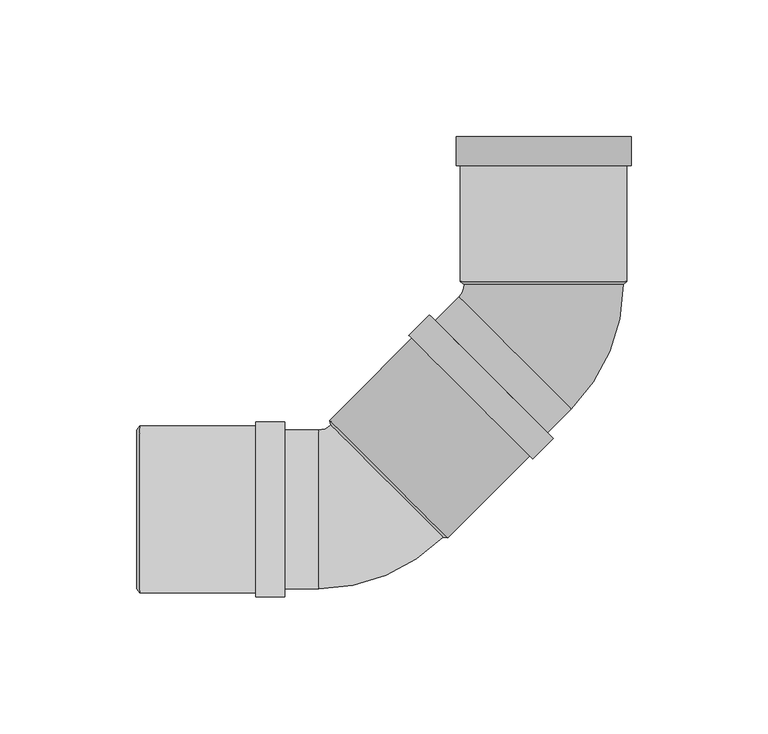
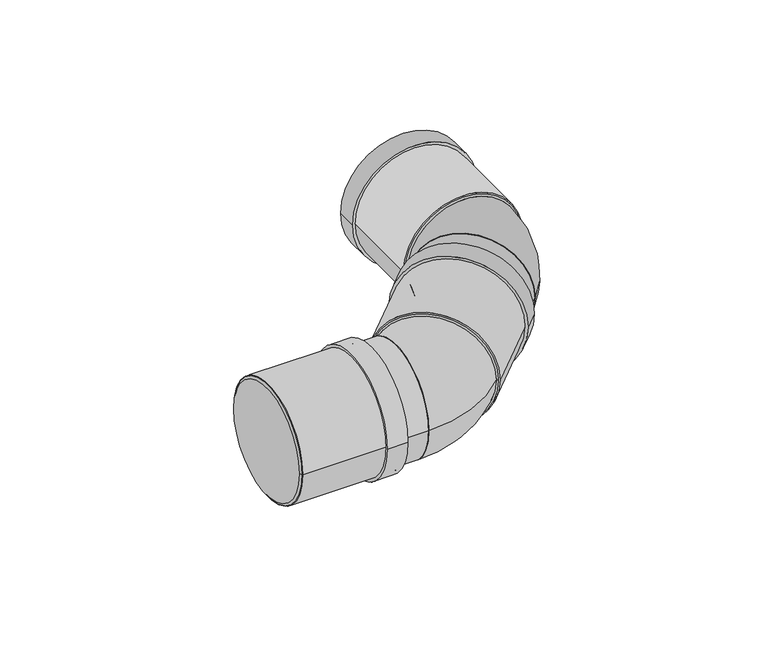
"""IFC4 building model written with IfcOpenShell, lengths in millimetres: pipe fitting geometry, Superdrain SK Bend_Composite 2x45 : Superdrain SK Bend_Composite 2x45."""

from ifc_helpers import new_model, si_unit, point, frame, origin, origin_2d, place, context, project, spatial, polyline, circle_curve, ellipse_curve, trimmed, segment, composite_curve, outline, extrude, source, transform, mapped, element, save
from ifc_brep_helpers import plane_surface, revolved_surface, advanced_brep


def pipe_fitting_acd45fcd(model_context):
    return source(origin(), model_context, "Body", "SolidModel", [
        advanced_brep(
        [(29.0, 82.1994083, 0.0), (-29.0, 82.1994083, 0.0), (10.1823376, 36.7695526, 0.0), (-30.8298557, 77.7817459, 0.0)],
        [
            (0, 1, circle_curve(frame((0.0, 82.1994083, 0.0), z_axis=(0.0, 1.0, 0.0), x_axis=(-1.0, 0.0, 0.0)), 29.0)),
            (1, 0, circle_curve(frame((0.0, 82.1994083, 0.0), z_axis=(0.0, 0.9999999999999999, 0.0), x_axis=(-0.9999999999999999, 0.0, 0.0)), 29.0)),
            (2, 3, circle_curve(frame((-10.323759, 57.2756493, 0.0), z_axis=(-0.7071067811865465, -0.7071067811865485, 0.0), x_axis=(-0.7071067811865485, 0.7071067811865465, 0.0)), 29.0)),
            (3, 2, circle_curve(frame((-10.323759, 57.2756493, 0.0), z_axis=(-0.7071067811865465, -0.7071067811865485, 0.0), x_axis=(-0.7071067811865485, 0.7071067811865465, 0.0)), 29.0)),
            (3, 1, circle_curve(frame((-35.247518, 82.1994083, 0.0), z_axis=(0.0, 0.0, 1.0), x_axis=(0.7071067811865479, 0.707106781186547, 0.0)), 6.247518)),
            (0, 2, circle_curve(frame((-35.247518, 82.1994083, 0.0), z_axis=(0.0, 0.0, -1.0), x_axis=(0.7071067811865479, 0.707106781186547, 0.0)), 64.247518)),
        ],
        [
            plane_surface(frame((0.0, 82.1994083, 0.0), z_axis=(0.0, 1.0, 0.0), x_axis=(0.0, 0.0, -1.0))),
            plane_surface(frame((-10.323759, 57.2756493, 0.0), z_axis=(-0.7071067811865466, -0.7071067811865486, 0.0), x_axis=(0.0, 0.0, -1.0))),
            revolved_surface(trimmed(ellipse_curve(frame((-10.323759, 107.1231673, 0.0), z_axis=(0.707106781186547, -0.7071067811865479, 0.0), x_axis=(-0.7071067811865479, -0.707106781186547, 0.0)), 29.0, 29.0), [point((-30.8298557, 86.6170706, 0.0))], [point((10.1823376, 127.6292639, 0.0))], True, "CARTESIAN"), (-35.247518, 82.1994083, 0.0), (0.0, 0.0, 1.0)),
            revolved_surface(trimmed(ellipse_curve(frame((-10.323759, 107.1231673, 0.0), z_axis=(0.707106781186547, -0.7071067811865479, 0.0), x_axis=(-0.7071067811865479, -0.707106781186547, 0.0)), 29.0, 29.0), [point((10.1823376, 127.6292639, 0.0))], [point((-30.8298557, 86.6170706, 0.0))], True, "CARTESIAN"), (-35.247518, 82.1994083, 0.0), (0.0, 0.0, 1.0)),
        ],
        [
            (0, [[1, 2]]),
            (1, [[3, 4]]),
            (2, [[-4, 5, -1, 6]]),
            (3, [[-3, -6, -2, -5]]),
        ],
    ),
        extrude(outline(composite_curve([segment(trimmed(circle_curve(origin_2d(), 30.45), [point((0.0, 30.45))], [point((0.0, -30.45))], False, "CARTESIAN"), True, "CONTINUOUS"), segment(trimmed(circle_curve(origin_2d(), 30.45), [point((0.0, -30.45))], [point((0.0, 30.45))], False, "CARTESIAN"), True, "CONTINUOUS")], self_intersect=False), holes=[composite_curve([segment(trimmed(circle_curve(origin_2d(), 29.0), [point((0.0, 29.0))], [point((0.0, -29.0))], True, "CARTESIAN"), True, "CONTINUOUS"), segment(trimmed(circle_curve(origin_2d(), 29.0), [point((0.0, -29.0))], [point((0.0, 29.0))], True, "CARTESIAN"), True, "CONTINUOUS")], self_intersect=False)]), frame((0.0, 83.1994083, 0.0), z_axis=(0.0, 1.0, 0.0), x_axis=(0.0, 0.0, 1.0)), (0.0, 0.0, 1.0), 53.0),
        extrude(outline(composite_curve([segment(trimmed(circle_curve(origin_2d(), 31.9725), [point((0.0, -31.9725))], [point((0.0, 31.9725))], False, "CARTESIAN"), True, "CONTINUOUS"), segment(trimmed(circle_curve(origin_2d(), 31.9725), [point((0.0, 31.9725))], [point((0.0, -31.9725))], False, "CARTESIAN"), True, "CONTINUOUS")], self_intersect=False), holes=[composite_curve([segment(trimmed(circle_curve(origin_2d(), 29.0), [point((0.0, -29.0))], [point((0.0, 29.0))], True, "CARTESIAN"), True, "CONTINUOUS"), segment(trimmed(circle_curve(origin_2d(), 29.0), [point((0.0, 29.0))], [point((0.0, -29.0))], True, "CARTESIAN"), True, "CONTINUOUS")], self_intersect=False)]), frame((0.0, 125.5994083, 0.0), z_axis=(0.0, 1.0, 0.0), x_axis=(0.0, 0.0, 1.0)), (0.0, 0.0, 1.0), 10.6),
        advanced_brep(
        [(30.45, 83.1994083, 0.0), (-30.45, 83.1994083, 0.0), (29.0, 82.1994083, 0.0), (-29.0, 82.1994083, 0.0)],
        [
            (0, 1, circle_curve(frame((0.0, 83.1994083, 0.0), z_axis=(0.0, 1.0, 0.0), x_axis=(1.0, 0.0, 0.0)), 30.45)),
            (1, 0, circle_curve(frame((0.0, 83.1994083, 0.0), z_axis=(0.0, 1.0, 0.0), x_axis=(-0.9999999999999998, 0.0, 0.0)), 30.45)),
            (2, 3, circle_curve(frame((0.0, 82.1994083, 0.0), z_axis=(0.0, -1.0, 0.0), x_axis=(-0.9999999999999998, 0.0, 0.0)), 29.0)),
            (3, 2, circle_curve(frame((0.0, 82.1994083, 0.0), z_axis=(0.0, -1.0, 0.0), x_axis=(1.0, 0.0, 0.0)), 29.0)),
            (3, 1),
            (0, 2),
        ],
        [
            plane_surface(frame((0.0, 83.1994083, 0.0), z_axis=(0.0, 1.0, 0.0), x_axis=(0.0, 0.0, -1.0))),
            plane_surface(frame((0.0, 82.1994083, 0.0), z_axis=(0.0, -1.0, 0.0), x_axis=(0.0, 0.0, -1.0))),
            revolved_surface(polyline([(-28.999999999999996, 82.1994083, 0.0), (-30.45, 83.1994083, 0.0)]), (0.0, 62.1994083, 0.0), (0.0, 1.0, 0.0)),
            revolved_surface(polyline([(28.999999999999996, 82.1994083, 0.0), (30.45, 83.1994083, 0.0)]), (0.0, 62.1994083, 0.0), (0.0, 1.0, 0.0)),
        ],
        [
            (0, [[1, 2]]),
            (1, [[3, 4]]),
            (2, [[-4, 5, -1, 6]]),
            (3, [[-3, -6, -2, -5]]),
        ],
    ),
        extrude(outline(composite_curve([segment(trimmed(circle_curve(origin_2d(), 29.0), [point((0.0, -29.0000001))], [point((0.0, 28.9999999))], False, "CARTESIAN"), True, "CONTINUOUS"), segment(trimmed(circle_curve(origin_2d(), 29.0), [point((0.0, 28.9999999))], [point((0.0, -29.0000001))], False, "CARTESIAN"), True, "CONTINUOUS")], self_intersect=False)), frame((-56.5685425, 11.0308658, 0.0), z_axis=(0.707106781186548, 0.7071067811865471, 0.0), x_axis=(0.0, 0.0, -1.0)), (0.0, 0.0, 1.0), 65.4),
        extrude(outline(composite_curve([segment(trimmed(circle_curve(origin_2d(), 30.45), [point((30.45, 0.0))], [point((-30.45, 0.0))], False, "CARTESIAN"), True, "CONTINUOUS"), segment(trimmed(circle_curve(origin_2d(), 30.45), [point((-30.45, 0.0))], [point((30.45, 0.0))], False, "CARTESIAN"), True, "CONTINUOUS")], self_intersect=False), holes=[composite_curve([segment(trimmed(circle_curve(origin_2d(), 29.0), [point((29.0, 0.0))], [point((-29.0, 0.0))], True, "CARTESIAN"), True, "CONTINUOUS"), segment(trimmed(circle_curve(origin_2d(), 29.0), [point((-29.0, 0.0))], [point((29.0, 0.0))], True, "CARTESIAN"), True, "CONTINUOUS")], self_intersect=False)]), frame((-147.5994083, 0.0, 0.0), z_axis=(1.0, 0.0, 0.0), x_axis=(0.0, 1.0, 0.0)), (0.0, 0.0, 1.0), 53.0),
        extrude(outline(composite_curve([segment(trimmed(circle_curve(origin_2d(), 31.9725), [point((31.9725, 0.0))], [point((-31.9725, 0.0))], False, "CARTESIAN"), True, "CONTINUOUS"), segment(trimmed(circle_curve(origin_2d(), 31.9725), [point((-31.9725, 0.0))], [point((31.9725, 0.0))], False, "CARTESIAN"), True, "CONTINUOUS")], self_intersect=False), holes=[composite_curve([segment(trimmed(circle_curve(origin_2d(), 29.0), [point((29.0, 0.0))], [point((-29.0, 0.0))], True, "CARTESIAN"), True, "CONTINUOUS"), segment(trimmed(circle_curve(origin_2d(), 29.0), [point((-29.0, 0.0))], [point((29.0, 0.0))], True, "CARTESIAN"), True, "CONTINUOUS")], self_intersect=False)]), frame((-105.1994083, 0.0, 0.0), z_axis=(1.0, 0.0, 0.0), x_axis=(0.0, 1.0, 0.0)), (0.0, 0.0, 1.0), 10.6),
        advanced_brep(
        [(-148.5994083, 29.0, 0.0), (-148.5994083, -29.0, 0.0), (-147.5994083, 30.45, 0.0), (-147.5994083, -30.45, 0.0)],
        [
            (0, 1, circle_curve(frame((-148.5994083, 0.0, 0.0), z_axis=(-1.0, 0.0, 0.0), x_axis=(0.0, 1.0000000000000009, 0.0)), 29.0)),
            (1, 0, circle_curve(frame((-148.5994083, 0.0, 0.0), z_axis=(-1.0, 0.0, 0.0), x_axis=(0.0, -1.0000000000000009, 0.0)), 29.0)),
            (2, 3, circle_curve(frame((-147.5994083, 0.0, 0.0), z_axis=(1.0, 0.0, 0.0), x_axis=(0.0, -1.0000000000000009, 0.0)), 30.45)),
            (3, 2, circle_curve(frame((-147.5994083, 0.0, 0.0), z_axis=(1.0, 0.0, 0.0), x_axis=(0.0, 1.0000000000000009, 0.0)), 30.45)),
            (3, 1),
            (0, 2),
        ],
        [
            plane_surface(frame((-148.5994083, 0.0, 0.0), z_axis=(-1.0, 0.0, 0.0), x_axis=(0.0, 0.0, -1.0))),
            plane_surface(frame((-147.5994083, 0.0, 0.0), z_axis=(1.0, 0.0, 0.0), x_axis=(0.0, 0.0, -1.0))),
            revolved_surface(polyline([(-148.5994083, 28.999999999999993, 0.0), (-147.5994083, 30.45, 0.0)]), (-168.5994083, 0.0, 0.0), (1.0000000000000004, 0.0, 0.0)),
            revolved_surface(polyline([(-148.5994083, -28.999999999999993, 0.0), (-147.5994083, -30.45, 0.0)]), (-168.5994083, 0.0, 0.0), (1.0000000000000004, 0.0, 0.0)),
        ],
        [
            (0, [[1, 2]]),
            (1, [[3, 4]]),
            (2, [[-4, 5, -1, 6]]),
            (3, [[-3, -6, -2, -5]]),
        ],
    ),
        advanced_brep(
        [(-36.7695526, -10.1823376, 0.0), (-77.7817459, 30.8298557, 0.0), (-82.1994083, -29.0, 0.0), (-82.1994083, 29.0, 0.0)],
        [
            (0, 1, circle_curve(frame((-57.2756493, 10.323759, 0.0), z_axis=(0.7071067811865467, 0.7071067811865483, 0.0), x_axis=(-0.7071067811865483, 0.7071067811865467, 0.0)), 29.0)),
            (1, 0, circle_curve(frame((-57.2756493, 10.323759, 0.0), z_axis=(0.7071067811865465, 0.7071067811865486, 0.0), x_axis=(-0.7071067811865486, 0.7071067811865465, 0.0)), 29.0)),
            (2, 3, circle_curve(frame((-82.1994083, 0.0, 0.0), z_axis=(-1.0, 0.0, 0.0), x_axis=(0.0, 1.0, 0.0)), 29.0)),
            (3, 2, circle_curve(frame((-82.1994083, 0.0, 0.0), z_axis=(-1.0, 0.0, 0.0), x_axis=(0.0, 1.0, 0.0)), 29.0)),
            (3, 1, circle_curve(frame((-82.1994083, 35.247518, 0.0), z_axis=(0.0, 0.0, 1.0), x_axis=(1.0, 0.0, 0.0)), 6.247518)),
            (0, 2, circle_curve(frame((-82.1994083, 35.247518, 0.0), z_axis=(0.0, 0.0, -1.0), x_axis=(1.0, 0.0, 0.0)), 64.247518)),
        ],
        [
            plane_surface(frame((-57.2756493, 10.323759, 0.0), z_axis=(0.7071067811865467, 0.7071067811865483, 0.0), x_axis=(0.0, 0.0, -1.0))),
            plane_surface(frame((-82.1994083, 0.0, 0.0), z_axis=(-1.0, 0.0, 0.0), x_axis=(0.0, 0.0, -1.0))),
            revolved_surface(trimmed(ellipse_curve(frame((-46.9518903, 35.247518, 0.0), z_axis=(0.0, -1.0, 0.0), x_axis=(-1.0, 0.0, 0.0)), 29.0, 29.0), [point((-75.9518903, 35.247518, 0.0))], [point((-17.9518903, 35.247518, 0.0))], True, "CARTESIAN"), (-82.1994083, 35.247518, 0.0), (0.0, 0.0, 1.0)),
            revolved_surface(trimmed(ellipse_curve(frame((-46.9518903, 35.247518, 0.0), z_axis=(0.0, -1.0, 0.0), x_axis=(-1.0, 0.0, 0.0)), 29.0, 29.0), [point((-17.9518903, 35.247518, 0.0))], [point((-75.9518903, 35.247518, 0.0))], True, "CARTESIAN"), (-82.1994083, 35.247518, 0.0), (0.0, 0.0, 1.0)),
        ],
        [
            (0, [[1, 2]]),
            (1, [[3, 4]]),
            (2, [[-4, 5, -1, 6]]),
            (3, [[-3, -6, -2, -5]]),
        ],
    ),
        extrude(outline(composite_curve([segment(trimmed(circle_curve(origin_2d(), 30.45), [point((0.0, 30.45))], [point((0.0, -30.45))], False, "CARTESIAN"), True, "CONTINUOUS"), segment(trimmed(circle_curve(origin_2d(), 30.45), [point((0.0, -30.45))], [point((0.0, 30.45))], False, "CARTESIAN"), True, "CONTINUOUS")], self_intersect=False), holes=[composite_curve([segment(trimmed(circle_curve(origin_2d(), 29.0), [point((0.0, 29.0000001))], [point((0.0, -28.9999999))], True, "CARTESIAN"), True, "CONTINUOUS"), segment(trimmed(circle_curve(origin_2d(), 29.0), [point((0.0, -28.9999999))], [point((0.0, 29.0000001))], True, "CARTESIAN"), True, "CONTINUOUS")], self_intersect=False)]), frame((-56.5685425, 11.0308658, 0.0), z_axis=(0.7071067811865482, 0.7071067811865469, 0.0), x_axis=(0.0, 0.0, 1.0)), (0.0, 0.0, 1.0), 53.0),
        extrude(outline(composite_curve([segment(trimmed(circle_curve(origin_2d(), 31.9725), [point((0.0, -31.9725))], [point((0.0, 31.9725001))], False, "CARTESIAN"), True, "CONTINUOUS"), segment(trimmed(circle_curve(origin_2d(), 31.9725), [point((0.0, 31.9725001))], [point((0.0, -31.9725))], False, "CARTESIAN"), True, "CONTINUOUS")], self_intersect=False), holes=[composite_curve([segment(trimmed(circle_curve(origin_2d(), 29.0), [point((0.0, -29.0))], [point((0.0, 29.0))], True, "CARTESIAN"), True, "CONTINUOUS"), segment(trimmed(circle_curve(origin_2d(), 29.0), [point((0.0, 29.0))], [point((0.0, -29.0))], True, "CARTESIAN"), True, "CONTINUOUS")], self_intersect=False)]), frame((-26.587215, 41.0121933, 0.0), z_axis=(0.7071067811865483, 0.7071067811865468, 0.0), x_axis=(0.0, 0.0, 1.0)), (0.0, 0.0, 1.0), 10.6),
        advanced_brep(
        [(-35.037141, -10.5005357, 0.0), (-78.099944, 32.5622673, 0.0), (-36.7695526, -10.1823376, 0.0), (-77.7817459, 30.8298557, 0.0)],
        [
            (0, 1, circle_curve(frame((-56.5685425, 11.0308658, 0.0), z_axis=(0.7071067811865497, 0.7071067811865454, 0.0), x_axis=(0.7071067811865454, -0.7071067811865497, 0.0)), 30.45)),
            (1, 0, circle_curve(frame((-56.5685425, 11.0308658, 0.0), z_axis=(0.7071067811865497, 0.7071067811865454, 0.0), x_axis=(-0.7071067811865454, 0.7071067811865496, 0.0)), 30.45)),
            (2, 3, circle_curve(frame((-57.2756493, 10.323759, 0.0), z_axis=(-0.7071067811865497, -0.7071067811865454, 0.0), x_axis=(-0.7071067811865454, 0.7071067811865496, 0.0)), 29.0)),
            (3, 2, circle_curve(frame((-57.2756493, 10.323759, 0.0), z_axis=(-0.7071067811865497, -0.7071067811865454, 0.0), x_axis=(0.7071067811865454, -0.7071067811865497, 0.0)), 29.0)),
            (3, 1),
            (0, 2),
        ],
        [
            plane_surface(frame((-56.5685425, 11.0308658, 0.0), z_axis=(0.7071067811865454, 0.7071067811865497, 0.0), x_axis=(0.0, 0.0, -1.0))),
            plane_surface(frame((-57.2756493, 10.323759, 0.0), z_axis=(-0.7071067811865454, -0.7071067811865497, 0.0), x_axis=(0.0, 0.0, -1.0))),
            revolved_surface(polyline([(-77.78174593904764, 30.829855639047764, 0.0), (-78.09994400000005, 32.562267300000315, 0.0)]), (-71.4177849, -3.8183766, 0.0), (0.7071067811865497, 0.7071067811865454, 0.0)),
            revolved_surface(polyline([(-36.769552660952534, -10.18233763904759, 0.0), (-35.037141, -10.5005357, 0.0)]), (-71.4177849, -3.8183766, 0.0), (0.7071067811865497, 0.7071067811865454, 0.0)),
        ],
        [
            (0, [[1, 2]]),
            (1, [[3, 4]]),
            (2, [[-4, 5, -1, 6]]),
            (3, [[-3, -6, -2, -5]]),
        ],
    ),
        extrude(outline(composite_curve([segment(trimmed(circle_curve(origin_2d(), 29.0), [point((-29.0, 0.0))], [point((29.0, 0.0))], False, "CARTESIAN"), True, "CONTINUOUS"), segment(trimmed(circle_curve(origin_2d(), 29.0), [point((29.0, 0.0))], [point((-29.0, 0.0))], False, "CARTESIAN"), True, "CONTINUOUS")], self_intersect=False)), frame((-147.5994083, 0.0, 0.0), z_axis=(1.0, 0.0, 0.0), x_axis=(0.0, 1.0, 0.0)), (0.0, 0.0, 1.0), 65.4),
    ])


if __name__ == "__main__":
    model = new_model("IFC4")
    model_context = context("Model", 3, world=origin())
    ifc_project = project(units=[si_unit("LENGTHUNIT", "METRE", prefix="MILLI")], contexts=[model_context])
    site = spatial("IfcSite", under=ifc_project)
    building = spatial("IfcBuilding", under=site)
    placement = place(None, origin())
    pipe_fitting_shape = pipe_fitting_acd45fcd(model_context)
    element("IfcPipeFitting", 1, ObjectType="Superdrain SK Bend_Composite 2x45 : Superdrain SK Bend_Composite 2x45", at=placement, inside=building, context=model_context, shape_type="MappedRepresentation", body=[
        mapped(pipe_fitting_shape, transform((0.0, 0.0, 0.0), x_axis=(1.0, 0.0, 0.0), y_axis=(0.0, 1.0, 0.0), z_axis=(0.0, 0.0, 1.0))),
    ])
    save(model, "model.ifc")
